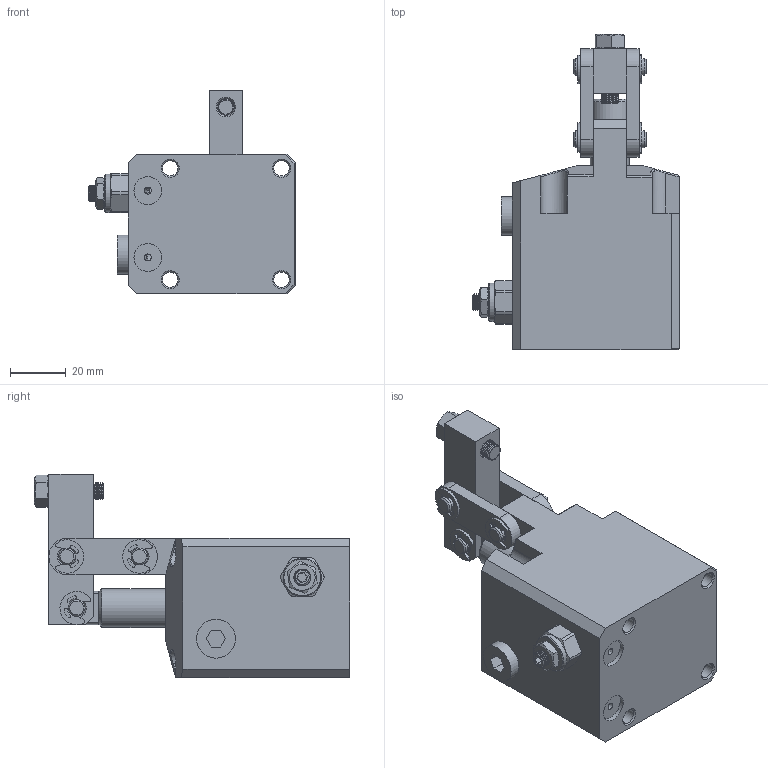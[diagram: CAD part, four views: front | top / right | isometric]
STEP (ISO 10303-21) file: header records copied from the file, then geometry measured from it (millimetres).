
FILE_DESCRIPTION(/* description */ ('STEP AP203'),/* implementation_level */ '2;1');
FILE_NAME(/* name */ 'D:\Vault_2016\Projekty\Clamptek\Hydraulic\CBLU\CBLU-30\STEP\CBLU-30CR.stp',/* time_stamp */ '2021-05-06T12:07:53+02:00',/* author */ ('user'),/* organization */ (''),/* preprocessor_version */ 'ST-DEVELOPER v18.1',/* originating_system */ 'Autodesk Inventor 2021',/* authorisation */ '');
FILE_SCHEMA (('AUTOMOTIVE_DESIGN { 1 0 10303 214 3 1 1 }'));
Length unit declared in the file: millimetre
Products named in the file (12): CBLU-30CR; ±¾ÌåCR_1_1; 30Á¬¸Ë; hex nuts, style 1-grades ab gb_GB_FASTENER_NUT_SNAB1 M6-N_1; hexagon socket head cap screws gb_GB_FASTENER_SCREWS_HSHCS M6X25-S_1; ³¤ÏúÖá_1; CZL10µ÷ËÙ·§_3; ÄÚÁù½Ç¶ÂÍ·×
îÐÂ_1; 30¶ÌÏúÖá; 30»îÈû¸Ë_2_2; 30Ñ¹°å; e rings gb_GB_CONNECTING_PIECE_RINGS_HR 6_1
Assembly tree (18 placements, depth 2):
  CBLU-30CR
    ±¾ÌåCR_1_1
    30Á¬¸Ë  x2
    hex nuts, style 1-grades ab gb_GB_FASTENER_NUT_SNAB1 M6-N_1
    hexagon socket head cap screws gb_GB_FASTENER_SCREWS_HSHCS M6X25-S_1
    ³¤ÏúÖá_1  x2
    e rings gb_GB_CONNECTING_PIECE_RINGS_HR 6_1  x6
    CZL10µ÷ËÙ·§_3
    ÄÚÁù½Ç¶ÂÍ·×
îÐÂ_1
    30¶ÌÏúÖá
    30»îÈû¸Ë_2_2
    30Ñ¹°å
Bounding box: 74.3 x 113.2 x 73 mm (x, y, z)
Volume: 188550.8 mm3; surface area: 49176.4 mm2
Topology: 21 solids, 21 shells, 681 faces, 1784 edges, 1162 vertices
Faces by surface type: cylinder 243, plane 221, cone 153, bspline 52, torus 12
Full cylindrical faces by diameter (mm): 1 x6, 1.6 x1, 2 x2, 2.5 x1, 3.3 x1, 3.8 x1, 4.9 x3, 4.917 x5, 5 x5, 5.5 x4, 5.6 x1, 6 x74, 6.1 x1, 7 x1, 8 x3, 8.7 x1, 8.8 x1, 9 x1, 10 x2, 12.6 x1, 12.7 x1, 13.8 x1, 14 x3, 30 x2, 36 x1, 37 x1
Entity records: 29589 total; most frequent: CARTESIAN_POINT 15650, ORIENTED_EDGE 2912, DIRECTION 2789, EDGE_CURVE 1456, AXIS2_PLACEMENT_3D 1083, VERTEX_POINT 947, EDGE_LOOP 627, LINE 623
